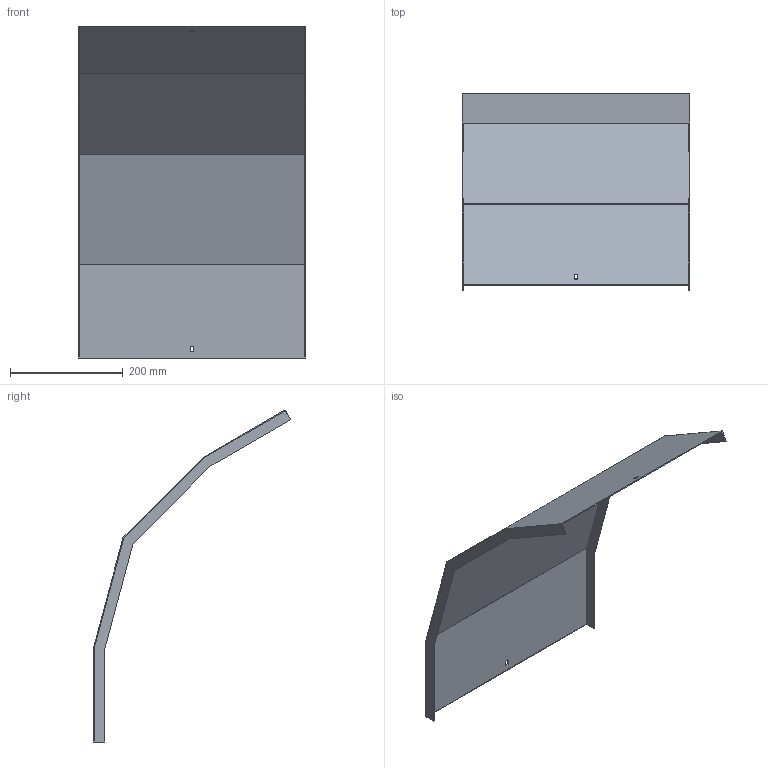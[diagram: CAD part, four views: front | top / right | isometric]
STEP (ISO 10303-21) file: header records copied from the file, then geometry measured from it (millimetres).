
FILE_DESCRIPTION (( 'STEP AP214' ), '1' );
FILE_NAME ('A2_41N3D400.step', '2025-02-21T10:40:03', ( '' ), ( '' ), 'SwSTEP 2.0', 'SolidWorks 2023', '' );
FILE_SCHEMA (( 'AUTOMOTIVE_DESIGN' ));
Length unit declared in the file: millimetre
Products named in the file (1): A2_41N3D400
Bounding box: 403 x 349.52 x 588.06 mm (x, y, z)
Volume: 485294 mm3; surface area: 650622 mm2
Topology: 1 solids, 1 shells, 30 faces, 84 edges, 56 vertices
Faces by surface type: plane 30
Entity records: 979 total; most frequent: CARTESIAN_POINT 171, ORIENTED_EDGE 168, DIRECTION 146, EDGE_CURVE 84, LINE 84, VECTOR 84, VERTEX_POINT 56, EDGE_LOOP 34
